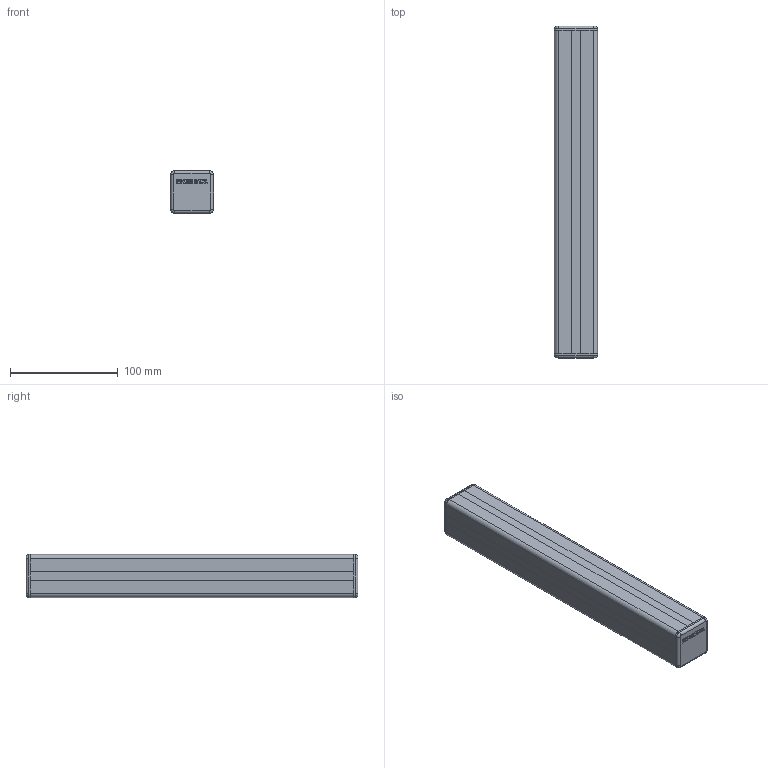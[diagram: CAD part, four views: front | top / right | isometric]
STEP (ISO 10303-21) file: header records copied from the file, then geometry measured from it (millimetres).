
FILE_DESCRIPTION(/* description */ (''),/* implementation_level */ '2;1');
FILE_NAME(/* name */ 'LA-6007-0600-A.stp',/* time_stamp */ '2015-01-28T11:12:15+00:00',/* author */ (''),/* organization */ (''),/* preprocessor_version */ 'ST-DEVELOPER v11',/* originating_system */ 'SIEMENS PLM Software NX 7.5',/* authorisation */ '');
FILE_SCHEMA (('AUTOMOTIVE_DESIGN { 1 0 10303 214 1 1 1 1 }'));
Length unit declared in the file: millimetre
Products named in the file (1): rt13982Avlap
Bounding box: 40 x 307.95 x 40 mm (x, y, z)
Volume: 488113.5 mm3; surface area: 49971.4 mm2
Topology: 1 solids, 1 shells, 84 faces, 290 edges, 234 vertices
Faces by surface type: plane 52, cylinder 12, bspline 12, cone 8
Entity records: 4585 total; most frequent: CARTESIAN_POINT 1788, ORIENTED_EDGE 580, DIRECTION 317, EDGE_CURVE 290, VERTEX_POINT 234, B_SPLINE_CURVE_WITH_KNOTS 163, AXIS2_PLACEMENT_3D 117, EDGE_LOOP 110
